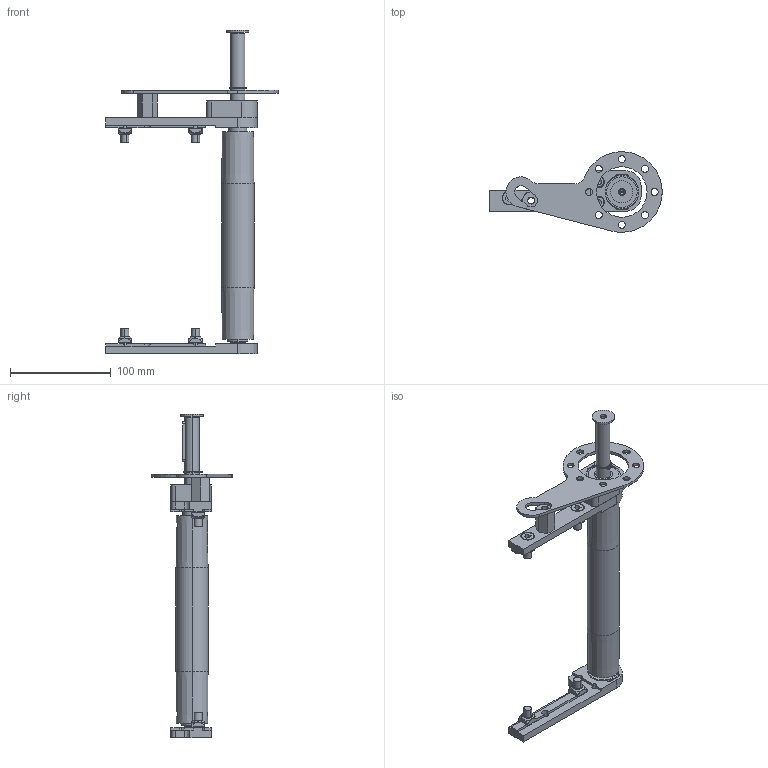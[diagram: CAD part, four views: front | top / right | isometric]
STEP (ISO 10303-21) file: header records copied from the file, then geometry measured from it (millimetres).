
FILE_DESCRIPTION (( 'STEP AP203' ), '1' );
FILE_NAME ('084.030.KDF.30.STEP', '2019-07-29T09:41:36', ( '' ), ( '' ), 'SwSTEP 2.0', 'SolidWorks 2018', '' );
FILE_SCHEMA (( 'CONFIG_CONTROL_DESIGN' ));
Length unit declared in the file: millimetre
Products named in the file (15): CHIAVETTE_A 5x5x40 UNI 6604-69; 084.807.005; Circlip DIN 471 - 14 x 1_Circlip DIN 471 - 14 x 1; CUSCINETTI CB_CB 202; Washer ISO 7094 - 6_Washer ISO 7094 - 6; 084.301.000 VITI ALUSIC_084.301.003; 084.030.KDF.30; 084.801.027 sx; 084.801.061; 084.802.027; 62012RSBOMB_62012RSBOMB; ISO 4762 M6 x 16 --- 16S_ISO 4762 M6 x 16 --- 16S; 084.302.000 DADI ALUSIC 13x13-1_084.302.004; 084.801.027 dx; 084.801.025
Assembly tree (21 placements, depth 2):
  084.030.KDF.30
    084.807.005
    084.801.061
    084.802.027
    084.801.027 dx
    084.801.027 sx
    084.301.000 VITI ALUSIC_084.301.003  x4
    084.302.000 DADI ALUSIC 13x13-1_084.302.004  x4
    084.801.025
    Circlip DIN 471 - 14 x 1_Circlip DIN 471 - 14 x 1
    CHIAVETTE_A 5x5x40 UNI 6604-69
    CUSCINETTI CB_CB 202
    62012RSBOMB_62012RSBOMB
    Washer ISO 7094 - 6_Washer ISO 7094 - 6
    ISO 4762 M6 x 16 --- 16S_ISO 4762 M6 x 16 --- 16S  x2
Bounding box: 171 x 80 x 320.5 mm (x, y, z)
Volume: 291513.1 mm3; surface area: 89668.8 mm2
Topology: 21 solids, 21 shells, 711 faces, 1824 edges, 1169 vertices
Faces by surface type: cylinder 264, plane 223, cone 152, torus 40, bspline 20, sphere 12
Entity records: 17337 total; most frequent: CARTESIAN_POINT 3354, DIRECTION 2758, ORIENTED_EDGE 2452, EDGE_CURVE 1226, AXIS2_PLACEMENT_3D 1112, VERTEX_POINT 794, CIRCLE 616, EDGE_LOOP 564
